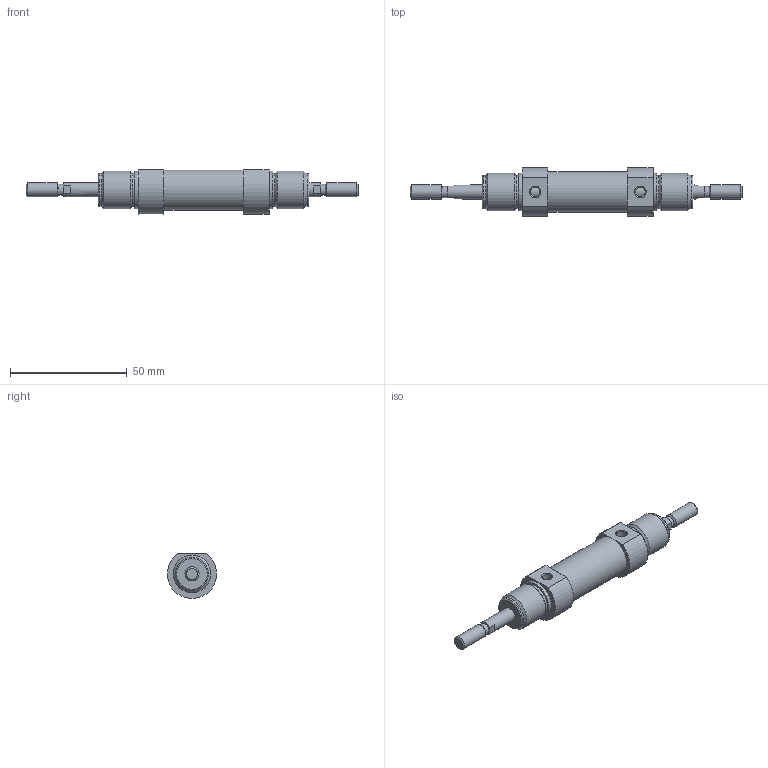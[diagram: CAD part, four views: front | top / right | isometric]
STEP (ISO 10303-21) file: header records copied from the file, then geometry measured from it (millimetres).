
FILE_DESCRIPTION(/* description */ (''),/* implementation_level */ '2;1');
FILE_NAME(/* name */ '\\UNIVER\Disegni in Archivio 2\CATALOGO STEP_Sito\MODELLI CILINDRI M\3D STEP\M101_M201\dia. 16\M101-16-0000.stp',/* time_stamp */ '2014-02-04T10:17:41+01:00',/* author */ ('Boceda'),/* organization */ (''),/* preprocessor_version */ 'ST-DEVELOPER v15.2',/* originating_system */ 'Autodesk Inventor 2014',/* authorisation */ '');
FILE_SCHEMA (('AUTOMOTIVE_DESIGN { 1 0 10303 214 3 1 1 }'));
Length unit declared in the file: centimetre
Products named in the file (1): M101-16-0000
Bounding box: 142 x 20.94 x 19.09 mm (x, y, z)
Volume: 23038.3 mm3; surface area: 6975.4 mm2
Topology: 1 solids, 1 shells, 61 faces, 123 edges, 74 vertices
Faces by surface type: plane 24, cylinder 21, cone 14, torus 2
Full cylindrical faces by diameter (mm): 4.134 x2, 4.773 x2, 6 x4, 14.16 x4, 16 x4, 17.3 x1
Entity records: 1489 total; most frequent: CARTESIAN_POINT 308, DIRECTION 260, ORIENTED_EDGE 180, AXIS2_PLACEMENT_3D 116, EDGE_LOOP 100, EDGE_CURVE 90, VERTEX_POINT 70, FACE_OUTER_BOUND 61
